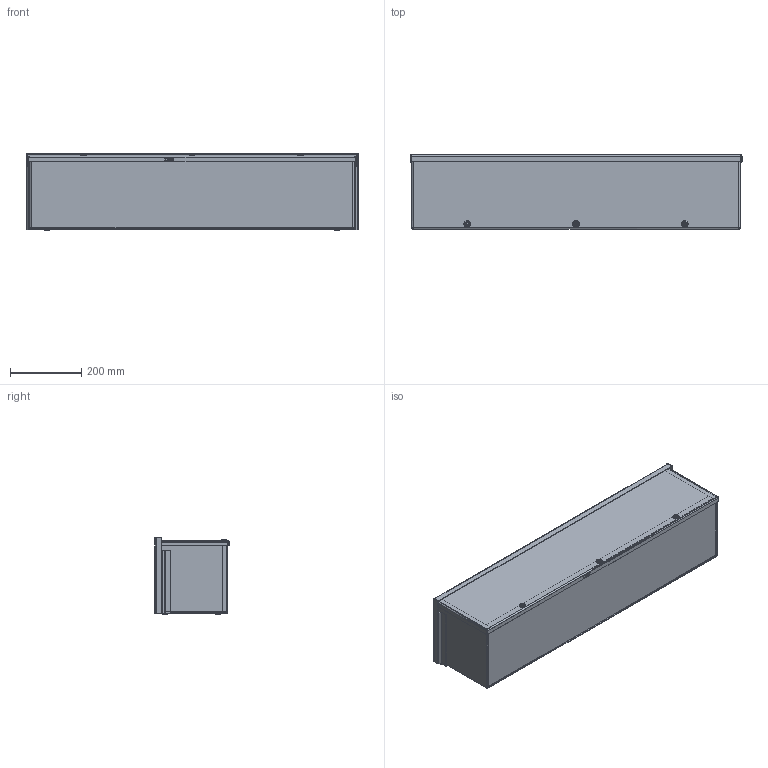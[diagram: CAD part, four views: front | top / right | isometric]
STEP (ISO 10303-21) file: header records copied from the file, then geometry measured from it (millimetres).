
FILE_DESCRIPTION (( 'STEP AP203' ), '1' );
FILE_NAME ('a8836rt.STEP', '2010-03-10T21:27:59', ( 'Hoffman User' ), ( 'Hoffman Enclosures' ), 'SwSTEP 2.0', 'SolidWorks 2009', '' );
FILE_SCHEMA (( 'CONFIG_CONTROL_DESIGN' ));
Length unit declared in the file: inch
Products named in the file (7): Support_43121001; Cover_3RT_8x36; a8836rt; WmtBody_3RT_8x8x36; Body_3RT_8x8x36; Bottom_3RT_8x36; Top_3RT_8x36
Assembly tree (6 placements, depth 3):
  a8836rt
    WmtBody_3RT_8x8x36
      Support_43121001
      Top_3RT_8x36
      Body_3RT_8x8x36
      Bottom_3RT_8x36
    Cover_3RT_8x36
Bounding box: 931.16 x 208.56 x 215.6 mm (x, y, z)
Volume: 1720710.6 mm3; surface area: 1906460.5 mm2
Topology: 8 solids, 8 shells, 312 faces, 688 edges, 400 vertices
Faces by surface type: plane 178, cylinder 74, cone 28, torus 28, bspline 4
Entity records: 9473 total; most frequent: CARTESIAN_POINT 1686, DIRECTION 1564, ORIENTED_EDGE 1376, EDGE_CURVE 688, AXIS2_PLACEMENT_3D 566, LINE 432, VECTOR 432, VERTEX_POINT 400
